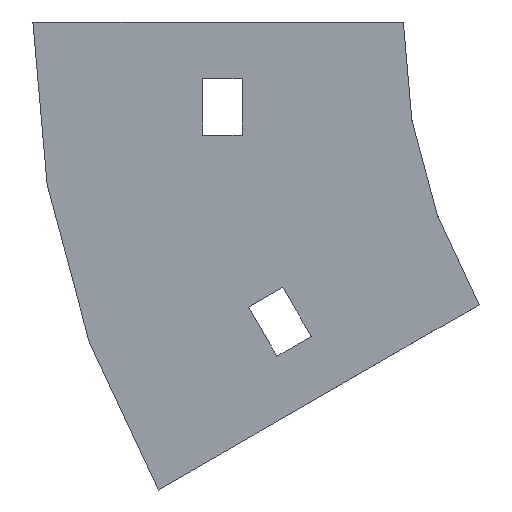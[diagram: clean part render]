
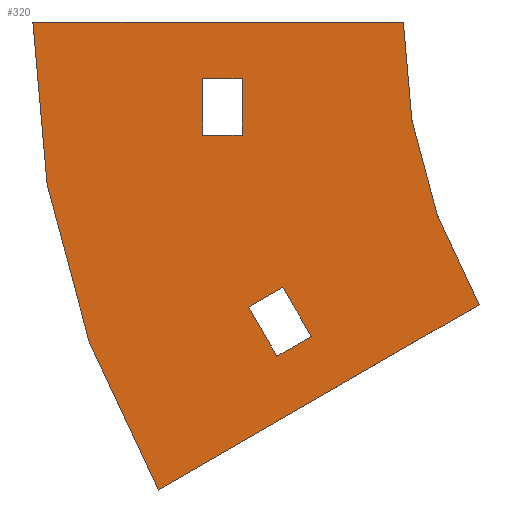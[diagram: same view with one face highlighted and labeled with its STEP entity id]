
A CAD part, left-side view. The second image highlights one B-rep face of the part: STEP entity #320.
In plain terms, the highlighted planar face has unit normal (-1, 0, 0).
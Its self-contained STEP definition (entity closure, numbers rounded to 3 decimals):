
#28 = VERTEX_POINT ( 'NONE', #883 ) ;
#37 = ORIENTED_EDGE ( 'NONE', *, *, #994, .T. ) ;
#39 = VECTOR ( 'NONE', #1066, 1000. ) ;
#40 = EDGE_CURVE ( 'NONE', #875, #369, #813, .T. ) ;
#55 = CARTESIAN_POINT ( 'NONE',  ( -252., 0., 0. ) ) ;
#78 = CARTESIAN_POINT ( 'NONE',  ( -252., -13.397, -50. ) ) ;
#85 = VERTEX_POINT ( 'NONE', #899 ) ;
#121 = ORIENTED_EDGE ( 'NONE', *, *, #396, .T. ) ;
#138 = CARTESIAN_POINT ( 'NONE',  ( -252., 35.5, -10. ) ) ;
#148 = EDGE_CURVE ( 'NONE', #188, #875, #830, .T. ) ;
#164 = EDGE_CURVE ( 'NONE', #1033, #282, #1092, .T. ) ;
#170 = FACE_OUTER_BOUND ( 'NONE', #277, .T. ) ;
#188 = VERTEX_POINT ( 'NONE', #329 ) ;
#189 = CARTESIAN_POINT ( 'NONE',  ( -252., 16.284, -55.59 ) ) ;
#197 = AXIS2_PLACEMENT_3D ( 'NONE', #610, #1148, #440 ) ;
#223 = ORIENTED_EDGE ( 'NONE', *, *, #562, .F. ) ;
#225 = VERTEX_POINT ( 'NONE', #416 ) ;
#237 = CIRCLE ( 'NONE', #679, 100. ) ;
#238 = CARTESIAN_POINT ( 'NONE',  ( -252., 43.327, -82.75 ) ) ;
#265 = CARTESIAN_POINT ( 'NONE',  ( -252., 28.5, -10. ) ) ;
#277 = EDGE_LOOP ( 'NONE', ( #223, #851, #346, #544 ) ) ;
#282 = VERTEX_POINT ( 'NONE', #265 ) ;
#292 = DIRECTION ( 'NONE',  ( 0., -1., 0. ) ) ;
#308 = VECTOR ( 'NONE', #292, 1000. ) ;
#320 = ADVANCED_FACE ( 'NONE', ( #816, #170, #791 ), #516, .T. ) ;
#321 = CARTESIAN_POINT ( 'NONE',  ( -252., 35.5, -20. ) ) ;
#329 = CARTESIAN_POINT ( 'NONE',  ( -252., 22.346, -59.09 ) ) ;
#338 = CARTESIAN_POINT ( 'NONE',  ( -252., 35.5, -20. ) ) ;
#344 = DIRECTION ( 'NONE',  ( 0., 0.866, -0.5 ) ) ;
#346 = ORIENTED_EDGE ( 'NONE', *, *, #1121, .F. ) ;
#348 = VECTOR ( 'NONE', #937, 1000. ) ;
#362 = CARTESIAN_POINT ( 'NONE',  ( -252., -100., 0. ) ) ;
#364 = DIRECTION ( 'NONE',  ( -1., 0., 0. ) ) ;
#369 = VERTEX_POINT ( 'NONE', #554 ) ;
#378 = LINE ( 'NONE', #383, #508 ) ;
#382 = EDGE_LOOP ( 'NONE', ( #956, #399, #710, #576 ) ) ;
#383 = CARTESIAN_POINT ( 'NONE',  ( -252., 65.5, 0. ) ) ;
#396 = EDGE_CURVE ( 'NONE', #282, #225, #1106, .T. ) ;
#399 = ORIENTED_EDGE ( 'NONE', *, *, #148, .F. ) ;
#416 = CARTESIAN_POINT ( 'NONE',  ( -252., 28.5, -20. ) ) ;
#434 = DIRECTION ( 'NONE',  ( 0., 0., 1. ) ) ;
#440 = DIRECTION ( 'NONE',  ( 0., 0., 1. ) ) ;
#444 = DIRECTION ( 'NONE',  ( 0., 0., 1. ) ) ;
#449 = CARTESIAN_POINT ( 'NONE',  ( -252., -100., 0. ) ) ;
#484 = DIRECTION ( 'NONE',  ( 0., 0., 1. ) ) ;
#485 = CARTESIAN_POINT ( 'NONE',  ( -252., 28.5, -10. ) ) ;
#508 = VECTOR ( 'NONE', #736, 1000. ) ;
#516 = PLANE ( 'NONE',  #797 ) ;
#520 = EDGE_CURVE ( 'NONE', #85, #188, #615, .T. ) ;
#544 = ORIENTED_EDGE ( 'NONE', *, *, #1013, .F. ) ;
#553 = CARTESIAN_POINT ( 'NONE',  ( -252., 16.284, -55.59 ) ) ;
#554 = CARTESIAN_POINT ( 'NONE',  ( -252., 21.284, -46.929 ) ) ;
#562 = EDGE_CURVE ( 'NONE', #1032, #28, #237, .T. ) ;
#564 = CARTESIAN_POINT ( 'NONE',  ( -252., 35.5, -10. ) ) ;
#574 = DIRECTION ( 'NONE',  ( 0., 1., 0. ) ) ;
#576 = ORIENTED_EDGE ( 'NONE', *, *, #1151, .F. ) ;
#586 = VECTOR ( 'NONE', #344, 1000. ) ;
#593 = DIRECTION ( 'NONE',  ( 0., 0.866, -0.5 ) ) ;
#610 = CARTESIAN_POINT ( 'NONE',  ( -252., -100., 0. ) ) ;
#615 = LINE ( 'NONE', #969, #39 ) ;
#658 = VECTOR ( 'NONE', #574, 1000. ) ;
#662 = DIRECTION ( 'NONE',  ( 0., 0., -1. ) ) ;
#676 = CIRCLE ( 'NONE', #197, 165.5 ) ;
#678 = EDGE_CURVE ( 'NONE', #1040, #1032, #378, .T. ) ;
#679 = AXIS2_PLACEMENT_3D ( 'NONE', #362, #984, #444 ) ;
#696 = VECTOR ( 'NONE', #593, 1000. ) ;
#710 = ORIENTED_EDGE ( 'NONE', *, *, #520, .F. ) ;
#736 = DIRECTION ( 'NONE',  ( 0., -1., 0. ) ) ;
#757 = CARTESIAN_POINT ( 'NONE',  ( -252., 35.5, -10. ) ) ;
#791 = FACE_BOUND ( 'NONE', #382, .T. ) ;
#797 = AXIS2_PLACEMENT_3D ( 'NONE', #449, #364, #434 ) ;
#813 = LINE ( 'NONE', #189, #1129 ) ;
#816 = FACE_BOUND ( 'NONE', #867, .T. ) ;
#830 = LINE ( 'NONE', #1009, #348 ) ;
#851 = ORIENTED_EDGE ( 'NONE', *, *, #678, .F. ) ;
#867 = EDGE_LOOP ( 'NONE', ( #920, #121, #37, #874 ) ) ;
#874 = ORIENTED_EDGE ( 'NONE', *, *, #1008, .T. ) ;
#875 = VERTEX_POINT ( 'NONE', #553 ) ;
#881 = VECTOR ( 'NONE', #662, 1000. ) ;
#883 = CARTESIAN_POINT ( 'NONE',  ( -252., -13.397, -50. ) ) ;
#899 = CARTESIAN_POINT ( 'NONE',  ( -252., 27.346, -50.429 ) ) ;
#920 = ORIENTED_EDGE ( 'NONE', *, *, #164, .T. ) ;
#926 = VECTOR ( 'NONE', #484, 1000. ) ;
#937 = DIRECTION ( 'NONE',  ( 0., -0.866, 0.5 ) ) ;
#940 = LINE ( 'NONE', #78, #696 ) ;
#955 = LINE ( 'NONE', #338, #658 ) ;
#956 = ORIENTED_EDGE ( 'NONE', *, *, #40, .F. ) ;
#966 = LINE ( 'NONE', #1141, #586 ) ;
#969 = CARTESIAN_POINT ( 'NONE',  ( -252., 22.346, -59.09 ) ) ;
#975 = DIRECTION ( 'NONE',  ( 0., 0.5, 0.866 ) ) ;
#984 = DIRECTION ( 'NONE',  ( -1., 0., 0. ) ) ;
#994 = EDGE_CURVE ( 'NONE', #225, #1041, #955, .T. ) ;
#1002 = VERTEX_POINT ( 'NONE', #238 ) ;
#1008 = EDGE_CURVE ( 'NONE', #1041, #1033, #1019, .T. ) ;
#1009 = CARTESIAN_POINT ( 'NONE',  ( -252., 22.346, -59.09 ) ) ;
#1013 = EDGE_CURVE ( 'NONE', #28, #1002, #940, .T. ) ;
#1019 = LINE ( 'NONE', #138, #926 ) ;
#1032 = VERTEX_POINT ( 'NONE', #55 ) ;
#1033 = VERTEX_POINT ( 'NONE', #757 ) ;
#1040 = VERTEX_POINT ( 'NONE', #1114 ) ;
#1041 = VERTEX_POINT ( 'NONE', #321 ) ;
#1066 = DIRECTION ( 'NONE',  ( 0., -0.5, -0.866 ) ) ;
#1092 = LINE ( 'NONE', #564, #308 ) ;
#1106 = LINE ( 'NONE', #485, #881 ) ;
#1114 = CARTESIAN_POINT ( 'NONE',  ( -252., 65.5, 0. ) ) ;
#1121 = EDGE_CURVE ( 'NONE', #1002, #1040, #676, .T. ) ;
#1129 = VECTOR ( 'NONE', #975, 1000. ) ;
#1141 = CARTESIAN_POINT ( 'NONE',  ( -252., 27.346, -50.429 ) ) ;
#1148 = DIRECTION ( 'NONE',  ( 1., 0., 0. ) ) ;
#1151 = EDGE_CURVE ( 'NONE', #369, #85, #966, .T. ) ;
